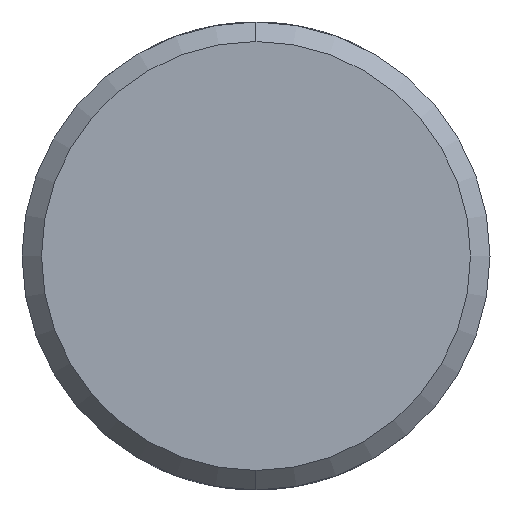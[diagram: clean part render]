
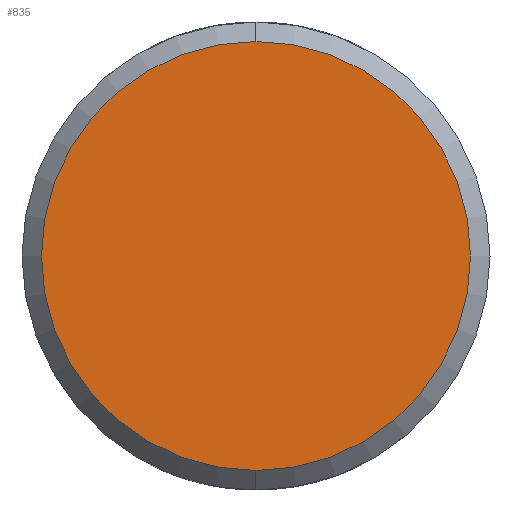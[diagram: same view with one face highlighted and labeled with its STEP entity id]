
A CAD part, left-side view. The second image highlights one B-rep face of the part: STEP entity #835.
In plain terms, the highlighted planar face has unit normal (-1, 0, 0).
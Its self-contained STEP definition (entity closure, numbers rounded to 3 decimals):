
#71 = VERTEX_POINT ( 'NONE', #502 ) ;
#73 = DIRECTION ( 'NONE',  ( 0., 0., -1. ) ) ;
#97 = CARTESIAN_POINT ( 'NONE',  ( -77., 0., 0. ) ) ;
#193 = DIRECTION ( 'NONE',  ( 1., 0., 0. ) ) ;
#212 = ORIENTED_EDGE ( 'NONE', *, *, #430, .T. ) ;
#222 = CARTESIAN_POINT ( 'NONE',  ( -77., 0., -5.5 ) ) ;
#241 = AXIS2_PLACEMENT_3D ( 'NONE', #847, #460, #73 ) ;
#246 = EDGE_LOOP ( 'NONE', ( #212, #668 ) ) ;
#249 = EDGE_CURVE ( 'NONE', #71, #560, #721, .T. ) ;
#319 = FACE_OUTER_BOUND ( 'NONE', #246, .T. ) ;
#392 = CIRCLE ( 'NONE', #690, 5.5 ) ;
#430 = EDGE_CURVE ( 'NONE', #560, #71, #392, .T. ) ;
#460 = DIRECTION ( 'NONE',  ( -1., 0., 0. ) ) ;
#502 = CARTESIAN_POINT ( 'NONE',  ( -77., 0., 5.5 ) ) ;
#560 = VERTEX_POINT ( 'NONE', #222 ) ;
#589 = CARTESIAN_POINT ( 'NONE',  ( -77., 0., 0. ) ) ;
#668 = ORIENTED_EDGE ( 'NONE', *, *, #249, .T. ) ;
#670 = PLANE ( 'NONE',  #929 ) ;
#690 = AXIS2_PLACEMENT_3D ( 'NONE', #97, #714, #725 ) ;
#714 = DIRECTION ( 'NONE',  ( -1., 0., 0. ) ) ;
#721 = CIRCLE ( 'NONE', #241, 5.5 ) ;
#725 = DIRECTION ( 'NONE',  ( 0., 0., -1. ) ) ;
#826 = DIRECTION ( 'NONE',  ( 0., 0., -1. ) ) ;
#835 = ADVANCED_FACE ( 'NONE', ( #319 ), #670, .F. ) ;
#847 = CARTESIAN_POINT ( 'NONE',  ( -77., 0., 0. ) ) ;
#929 = AXIS2_PLACEMENT_3D ( 'NONE', #589, #193, #826 ) ;
